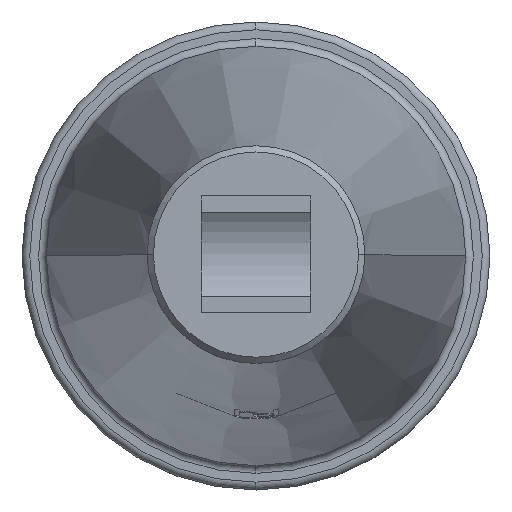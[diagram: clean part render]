
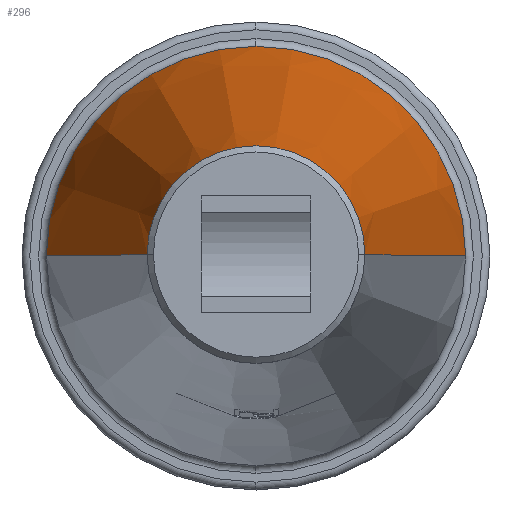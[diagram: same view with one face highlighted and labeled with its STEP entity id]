
A CAD part, top view. The second image highlights one B-rep face of the part: STEP entity #296.
In plain terms, the highlighted conical face has half-angle 7.768 degrees and reference radius 102.093 mm.
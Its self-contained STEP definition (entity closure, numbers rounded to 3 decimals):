
#296=ADVANCED_FACE('',(#621),#622,.T.);
#621=FACE_OUTER_BOUND('',#1008,.T.);
#622=CONICAL_SURFACE('',#1009,102.093,0.136);
#1008=EDGE_LOOP('',(#1701,#1702,#1703,#1704,#1705));
#1009=AXIS2_PLACEMENT_3D('',#1706,#1707,#1708);
#1701=ORIENTED_EDGE('',*,*,#2367,.T.);
#1702=ORIENTED_EDGE('',*,*,#2448,.F.);
#1703=ORIENTED_EDGE('',*,*,#2308,.F.);
#1704=ORIENTED_EDGE('',*,*,#2369,.T.);
#1705=ORIENTED_EDGE('',*,*,#2449,.T.);
#1706=CARTESIAN_POINT('',(467.795,584.79,-67.008));
#1707=DIRECTION('',(0.,0.,-1.0));
#1708=DIRECTION('',(1.0,0.,0.));
#2308=EDGE_CURVE('',#2744,#2746,#2747,.T.);
#2367=EDGE_CURVE('',#2851,#2852,#2853,.T.);
#2369=EDGE_CURVE('',#2744,#2854,#2856,.T.);
#2448=EDGE_CURVE('',#2746,#2852,#2980,.T.);
#2449=EDGE_CURVE('',#2854,#2851,#2981,.T.);
#2744=VERTEX_POINT('',#3363);
#2746=VERTEX_POINT('',#3365);
#2747=CIRCLE('',#3366,134.41);
#2851=VERTEX_POINT('',#3824);
#2852=VERTEX_POINT('',#3825);
#2853=LINE('',#3826,#3827);
#2854=VERTEX_POINT('',#3828);
#2856=LINE('',#3830,#3831);
#2980=CIRCLE('',#4315,134.41);
#2981=CIRCLE('',#4316,69.775);
#3363=CARTESIAN_POINT('',(333.384,584.79,-303.901));
#3365=CARTESIAN_POINT('',(467.795,719.2,-303.901));
#3366=AXIS2_PLACEMENT_3D('',#4793,#4794,#4795);
#3824=CARTESIAN_POINT('',(537.57,584.79,169.886));
#3825=CARTESIAN_POINT('',(602.205,584.79,-303.901));
#3826=CARTESIAN_POINT('',(569.887,584.79,-67.008));
#3827=VECTOR('',#4865,1.0);
#3828=CARTESIAN_POINT('',(398.019,584.79,169.886));
#3830=CARTESIAN_POINT('',(365.702,584.79,-67.008));
#3831=VECTOR('',#4869,1.0);
#4315=AXIS2_PLACEMENT_3D('',#4950,#4951,#4952);
#4316=AXIS2_PLACEMENT_3D('',#4953,#4954,#4955);
#4793=CARTESIAN_POINT('',(467.795,584.79,-303.901));
#4794=DIRECTION('',(0.,0.,-1.0));
#4795=DIRECTION('',(1.0,0.,0.));
#4865=DIRECTION('',(0.135,0.,-0.991));
#4869=DIRECTION('',(0.135,0.,0.991));
#4950=CARTESIAN_POINT('',(467.795,584.79,-303.901));
#4951=DIRECTION('',(0.,0.,-1.0));
#4952=DIRECTION('',(1.0,0.,0.));
#4953=CARTESIAN_POINT('',(467.795,584.79,169.886));
#4954=DIRECTION('',(0.,0.,-1.0));
#4955=DIRECTION('',(1.0,0.,0.));
